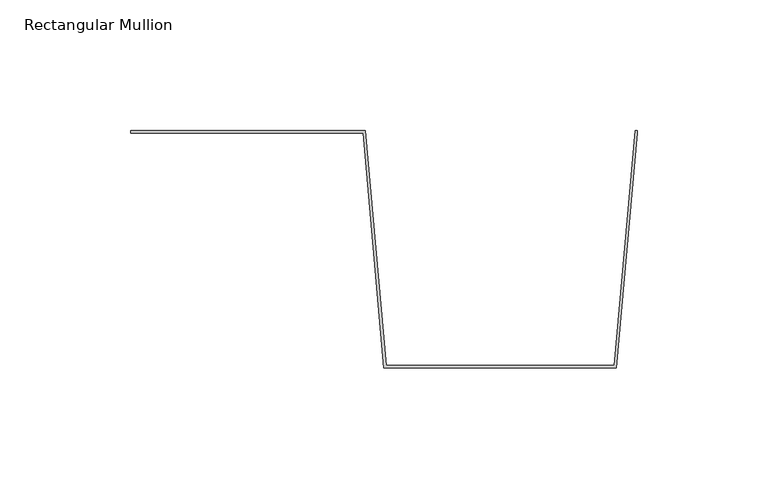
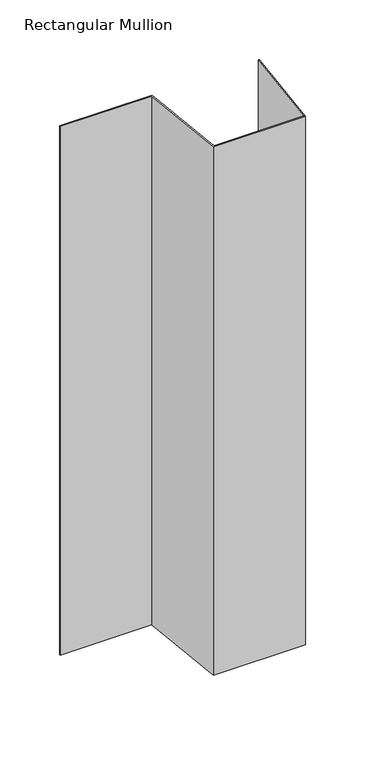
"""IFC4 building model written with IfcOpenShell, lengths in millimetres: member geometry, Rectangular Mullion : CD_NINELINE_Box Intermediate."""

from ifc_helpers import new_model, si_unit, frame, origin, place, context, project, spatial, polyline, outline, extrude, source, transform, mapped, element, save


def rectangular_mullion_2d550053(model_context):
    return source(origin(), model_context, "Body", "SweptSolid", [
        extrude(outline(polyline([(0.0, 0.0), (89.911879, 0.0), (97.911879, -90.0), (185.088121, -90.0), (193.088121, 0.0), (194.0, 0.0), (194.0, -1.0357186), (186.0, -91.0357186), (97.0, -91.0357186), (88.996825, -1.0), (0.0, -1.0), (0.0, 0.0)])), frame((0.0, 0.0, -542.0), z_axis=(0.0, 0.0, 1.0), x_axis=(1.0, 0.0, 0.0)), (0.0, 0.0, 1.0), 542.0),
    ])


if __name__ == "__main__":
    model = new_model("IFC4")
    model_context = context("Model", 3, world=origin())
    ifc_project = project(units=[si_unit("LENGTHUNIT", "METRE", prefix="MILLI")], contexts=[model_context])
    site = spatial("IfcSite", under=ifc_project)
    building = spatial("IfcBuilding", under=site)
    placement = place(None, origin())
    rectangular_mullion_shape = rectangular_mullion_2d550053(model_context)
    element("IfcMember", 1, ObjectType="Rectangular Mullion : CD_NINELINE_Box Intermediate", at=placement, inside=building, context=model_context, shape_type="MappedRepresentation", body=[
        mapped(rectangular_mullion_shape, transform((0.0, 0.0, 0.0), x_axis=(1.0, 0.0, 0.0), y_axis=(0.0, 1.0, 0.0), z_axis=(0.0, 0.0, 1.0))),
    ])
    save(model, "model.ifc")
